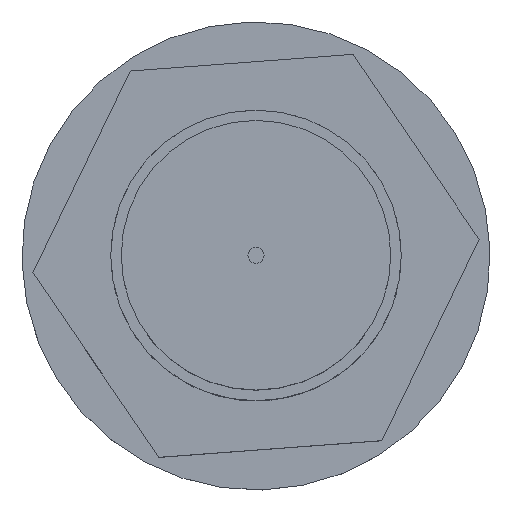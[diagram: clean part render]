
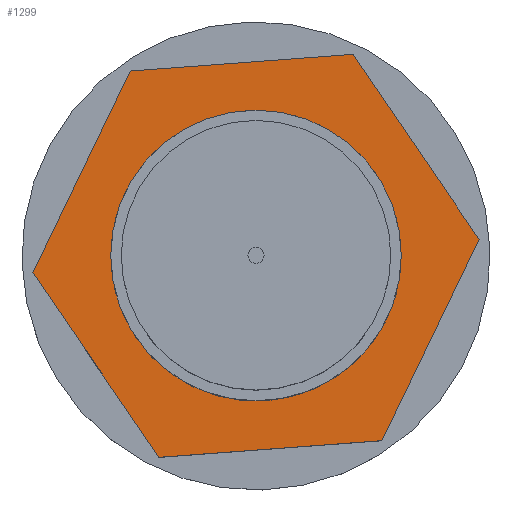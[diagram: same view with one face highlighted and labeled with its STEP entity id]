
A CAD part, top view. The second image highlights one B-rep face of the part: STEP entity #1299.
In plain terms, the highlighted planar face has unit normal (0, 0, 1) as drawn and (1, 0, 0) by its records, which use the part's own axes.
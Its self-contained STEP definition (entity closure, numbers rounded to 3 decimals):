
#22 = ORIENTED_EDGE ( 'NONE', *, *, #1434, .T. ) ;
#67 = CIRCLE ( 'NONE', #1423, 9. ) ;
#103 = CIRCLE ( 'NONE', #652, 9. ) ;
#107 = VECTOR ( 'NONE', #393, 1000. ) ;
#128 = CARTESIAN_POINT ( 'NONE',  ( 4., -12., -6.928 ) ) ;
#131 = ORIENTED_EDGE ( 'NONE', *, *, #188, .F. ) ;
#137 = DIRECTION ( 'NONE',  ( 0., -0.866, 0.5 ) ) ;
#140 = DIRECTION ( 'NONE',  ( 1., 0., 0. ) ) ;
#170 = PLANE ( 'NONE',  #876 ) ;
#174 = DIRECTION ( 'NONE',  ( 1., 0., 0. ) ) ;
#188 = EDGE_CURVE ( 'NONE', #386, #610, #67, .T. ) ;
#255 = CARTESIAN_POINT ( 'NONE',  ( 4., 12., -6.928 ) ) ;
#277 = VECTOR ( 'NONE', #137, 1000. ) ;
#306 = LINE ( 'NONE', #128, #550 ) ;
#317 = CARTESIAN_POINT ( 'NONE',  ( 4., 12., 6.928 ) ) ;
#320 = CARTESIAN_POINT ( 'NONE',  ( 4., 0., 0. ) ) ;
#356 = EDGE_CURVE ( 'NONE', #610, #386, #103, .T. ) ;
#372 = DIRECTION ( 'NONE',  ( 0., 0., 1. ) ) ;
#386 = VERTEX_POINT ( 'NONE', #1686 ) ;
#393 = DIRECTION ( 'NONE',  ( 0., -0.866, -0.5 ) ) ;
#464 = CARTESIAN_POINT ( 'NONE',  ( 4., 0., 13.856 ) ) ;
#489 = LINE ( 'NONE', #317, #277 ) ;
#543 = CARTESIAN_POINT ( 'NONE',  ( 4., 12., -6.928 ) ) ;
#550 = VECTOR ( 'NONE', #1759, 1000. ) ;
#560 = CARTESIAN_POINT ( 'NONE',  ( 4., 0., 13.856 ) ) ;
#574 = EDGE_CURVE ( 'NONE', #727, #675, #1647, .T. ) ;
#610 = VERTEX_POINT ( 'NONE', #1591 ) ;
#652 = AXIS2_PLACEMENT_3D ( 'NONE', #320, #140, #1776 ) ;
#675 = VERTEX_POINT ( 'NONE', #255 ) ;
#697 = EDGE_CURVE ( 'NONE', #1639, #1409, #733, .T. ) ;
#698 = FACE_OUTER_BOUND ( 'NONE', #814, .T. ) ;
#711 = LINE ( 'NONE', #543, #941 ) ;
#721 = CARTESIAN_POINT ( 'NONE',  ( 4., 12., 6.928 ) ) ;
#727 = VERTEX_POINT ( 'NONE', #1194 ) ;
#733 = LINE ( 'NONE', #560, #107 ) ;
#739 = EDGE_CURVE ( 'NONE', #1553, #727, #306, .T. ) ;
#751 = ORIENTED_EDGE ( 'NONE', *, *, #574, .T. ) ;
#794 = FACE_BOUND ( 'NONE', #1173, .T. ) ;
#814 = EDGE_LOOP ( 'NONE', ( #1085, #751, #838, #22, #1704, #1314 ) ) ;
#838 = ORIENTED_EDGE ( 'NONE', *, *, #1542, .T. ) ;
#875 = CARTESIAN_POINT ( 'NONE',  ( 4., -12., 6.928 ) ) ;
#876 = AXIS2_PLACEMENT_3D ( 'NONE', #1802, #1599, #1380 ) ;
#939 = VECTOR ( 'NONE', #1229, 1000. ) ;
#941 = VECTOR ( 'NONE', #372, 1000. ) ;
#1033 = VERTEX_POINT ( 'NONE', #721 ) ;
#1050 = CARTESIAN_POINT ( 'NONE',  ( 4., 0., 0. ) ) ;
#1085 = ORIENTED_EDGE ( 'NONE', *, *, #739, .T. ) ;
#1131 = VECTOR ( 'NONE', #1176, 1000. ) ;
#1173 = EDGE_LOOP ( 'NONE', ( #131, #1589 ) ) ;
#1176 = DIRECTION ( 'NONE',  ( 0., 0., -1. ) ) ;
#1194 = CARTESIAN_POINT ( 'NONE',  ( 4., 0., -13.856 ) ) ;
#1229 = DIRECTION ( 'NONE',  ( 0., 0.866, 0.5 ) ) ;
#1299 = ADVANCED_FACE ( 'NONE', ( #698, #794 ), #170, .T. ) ;
#1314 = ORIENTED_EDGE ( 'NONE', *, *, #1767, .T. ) ;
#1366 = CARTESIAN_POINT ( 'NONE',  ( 4., -12., 6.928 ) ) ;
#1380 = DIRECTION ( 'NONE',  ( 0., 0., -1. ) ) ;
#1403 = CARTESIAN_POINT ( 'NONE',  ( 4., -12., -6.928 ) ) ;
#1409 = VERTEX_POINT ( 'NONE', #875 ) ;
#1415 = CARTESIAN_POINT ( 'NONE',  ( 4., 0., -13.856 ) ) ;
#1423 = AXIS2_PLACEMENT_3D ( 'NONE', #1050, #174, #1805 ) ;
#1434 = EDGE_CURVE ( 'NONE', #1033, #1639, #489, .T. ) ;
#1542 = EDGE_CURVE ( 'NONE', #675, #1033, #711, .T. ) ;
#1553 = VERTEX_POINT ( 'NONE', #1403 ) ;
#1586 = LINE ( 'NONE', #1366, #1131 ) ;
#1589 = ORIENTED_EDGE ( 'NONE', *, *, #356, .F. ) ;
#1591 = CARTESIAN_POINT ( 'NONE',  ( 4., 0., -9. ) ) ;
#1599 = DIRECTION ( 'NONE',  ( 1., 0., 0. ) ) ;
#1639 = VERTEX_POINT ( 'NONE', #464 ) ;
#1647 = LINE ( 'NONE', #1415, #939 ) ;
#1686 = CARTESIAN_POINT ( 'NONE',  ( 4., 0., 9. ) ) ;
#1704 = ORIENTED_EDGE ( 'NONE', *, *, #697, .T. ) ;
#1759 = DIRECTION ( 'NONE',  ( 0., 0.866, -0.5 ) ) ;
#1767 = EDGE_CURVE ( 'NONE', #1409, #1553, #1586, .T. ) ;
#1776 = DIRECTION ( 'NONE',  ( 0., 0., -1. ) ) ;
#1802 = CARTESIAN_POINT ( 'NONE',  ( 4., 0., 0. ) ) ;
#1805 = DIRECTION ( 'NONE',  ( 0., 0., -1. ) ) ;
